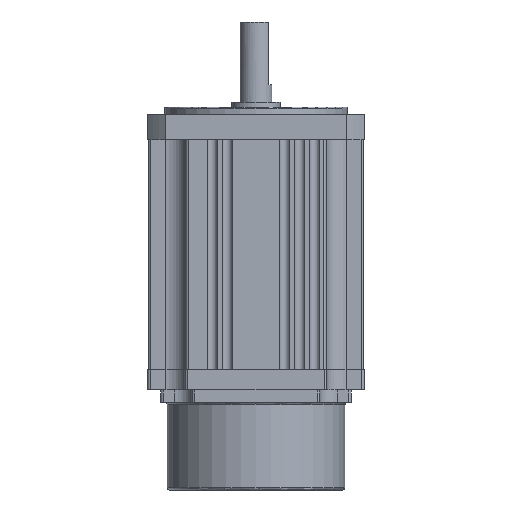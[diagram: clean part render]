
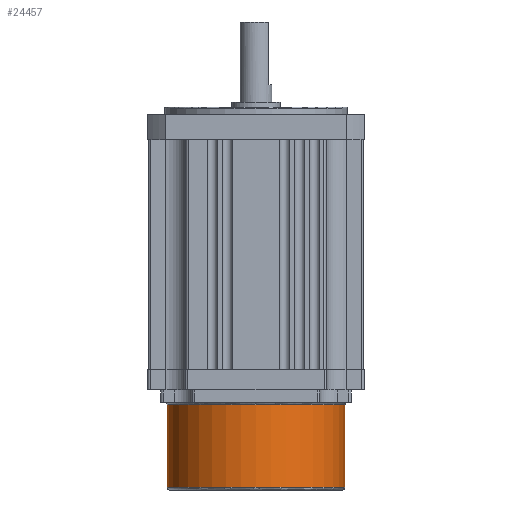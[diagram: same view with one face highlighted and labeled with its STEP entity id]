
A CAD part, front view. The second image highlights one B-rep face of the part: STEP entity #24457.
In plain terms, the highlighted cylindrical face has radius 35.5 mm (diameter 71 mm), a partial arc.
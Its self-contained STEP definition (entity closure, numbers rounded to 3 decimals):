
#13179 = CARTESIAN_POINT ( 'NONE',  ( 35.5, 0., -47. ) ) ;
#13362 = CARTESIAN_POINT ( 'NONE',  ( -35.5, 0., -14. ) ) ;
#13411 = CARTESIAN_POINT ( 'NONE',  ( 35.5, 0., -14. ) ) ;
#17225 = DIRECTION ( 'NONE',  ( 0., 0., 1. ) ) ;
#17231 = FACE_OUTER_BOUND ( 'NONE', #25149, .T. ) ;
#17232 = CARTESIAN_POINT ( 'NONE',  ( 0., 0., -48. ) ) ;
#17235 = CYLINDRICAL_SURFACE ( 'NONE', #21718, 35.5 ) ;
#17237 = DIRECTION ( 'NONE',  ( 1., 0., 0. ) ) ;
#17530 = LINE ( 'NONE', #17598, #21728 ) ;
#17598 = CARTESIAN_POINT ( 'NONE',  ( 35.5, 0., -48. ) ) ;
#17602 = DIRECTION ( 'NONE',  ( 0., 0., 1. ) ) ;
#17607 = CARTESIAN_POINT ( 'NONE',  ( -35.5, 0., -48. ) ) ;
#17614 = LINE ( 'NONE', #17607, #21737 ) ;
#17629 = DIRECTION ( 'NONE',  ( 0., 0., 1. ) ) ;
#17853 = CARTESIAN_POINT ( 'NONE',  ( -35.5, 0., -47. ) ) ;
#17924 = CARTESIAN_POINT ( 'NONE',  ( 0., 0., -14. ) ) ;
#17926 = DIRECTION ( 'NONE',  ( 0., 0., -1. ) ) ;
#17928 = DIRECTION ( 'NONE',  ( 1., 0., 0. ) ) ;
#18279 = CARTESIAN_POINT ( 'NONE',  ( 0., 0., -47. ) ) ;
#18280 = DIRECTION ( 'NONE',  ( 0., 0., -1. ) ) ;
#18281 = DIRECTION ( 'NONE',  ( -1., 0., 0. ) ) ;
#19549 = VERTEX_POINT ( 'NONE', #17853 ) ;
#19809 = VERTEX_POINT ( 'NONE', #13179 ) ;
#19966 = VERTEX_POINT ( 'NONE', #13362 ) ;
#20003 = VERTEX_POINT ( 'NONE', #13411 ) ;
#21718 = AXIS2_PLACEMENT_3D ( 'NONE', #17232, #17225, #17237 ) ;
#21728 = VECTOR ( 'NONE', #17602, 1000. ) ;
#21737 = VECTOR ( 'NONE', #17629, 1000. ) ;
#21748 = CIRCLE ( 'NONE', #21769, 35.5 ) ;
#21751 = CIRCLE ( 'NONE', #21753, 35.5 ) ;
#21753 = AXIS2_PLACEMENT_3D ( 'NONE', #17924, #17926, #17928 ) ;
#21769 = AXIS2_PLACEMENT_3D ( 'NONE', #18279, #18280, #18281 ) ;
#23953 = ORIENTED_EDGE ( 'NONE', *, *, #24480, .F. ) ;
#23954 = ORIENTED_EDGE ( 'NONE', *, *, #24502, .F. ) ;
#23955 = ORIENTED_EDGE ( 'NONE', *, *, #24476, .T. ) ;
#23956 = ORIENTED_EDGE ( 'NONE', *, *, #24489, .T. ) ;
#24457 = ADVANCED_FACE ( 'NONE', ( #17231 ), #17235, .T. ) ;
#24476 = EDGE_CURVE ( 'NONE', #19809, #20003, #17530, .T. ) ;
#24480 = EDGE_CURVE ( 'NONE', #19549, #19966, #17614, .T. ) ;
#24489 = EDGE_CURVE ( 'NONE', #20003, #19966, #21751, .T. ) ;
#24502 = EDGE_CURVE ( 'NONE', #19809, #19549, #21748, .T. ) ;
#25149 = EDGE_LOOP ( 'NONE', ( #23953, #23954, #23955, #23956 ) ) ;
